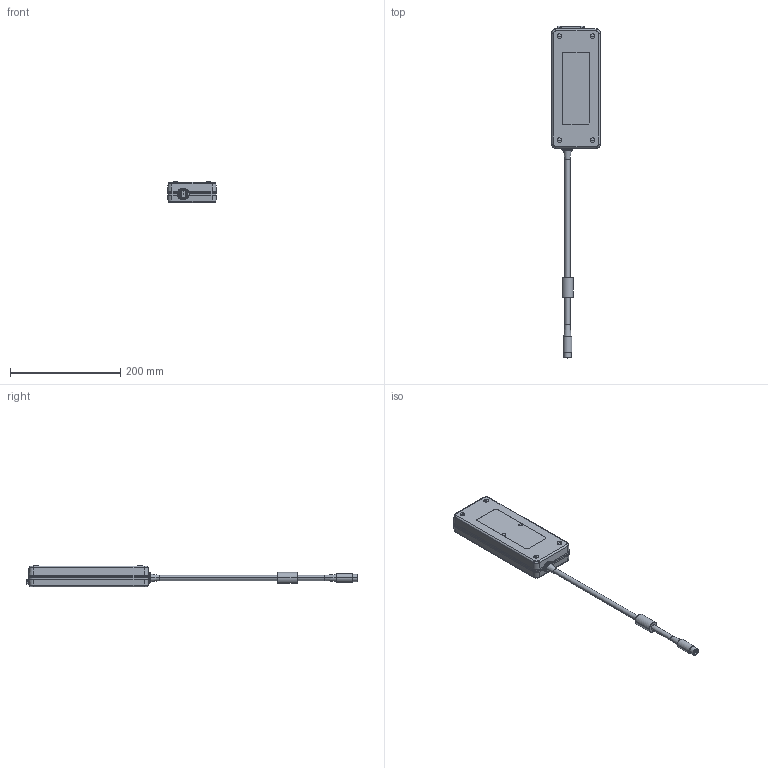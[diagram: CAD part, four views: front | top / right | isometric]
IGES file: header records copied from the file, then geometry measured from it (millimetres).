
Start section: SolidWorks IGES file using analytic representation for surfaces
Global section: file name: C:\Users\Leonard Torio\Desktop\AHM 3D STEP FILES\IGES\AHM250PSXX IGES.IGS; native system: SolidWorks 2011; preprocessor: SolidWorks 2011; author: Leonard Torio; date: 120116.094849; units: millimetre
Bounding box: 88.5 x 601.56 x 38.6 mm (x, y, z)
Surface area: 159197.2 mm2 (no closed solid volume)
Topology: 0 solids, 0 shells, 1311 faces, 12205 edges, 12154 vertices
Faces by surface type: bspline 787, revolution 524
